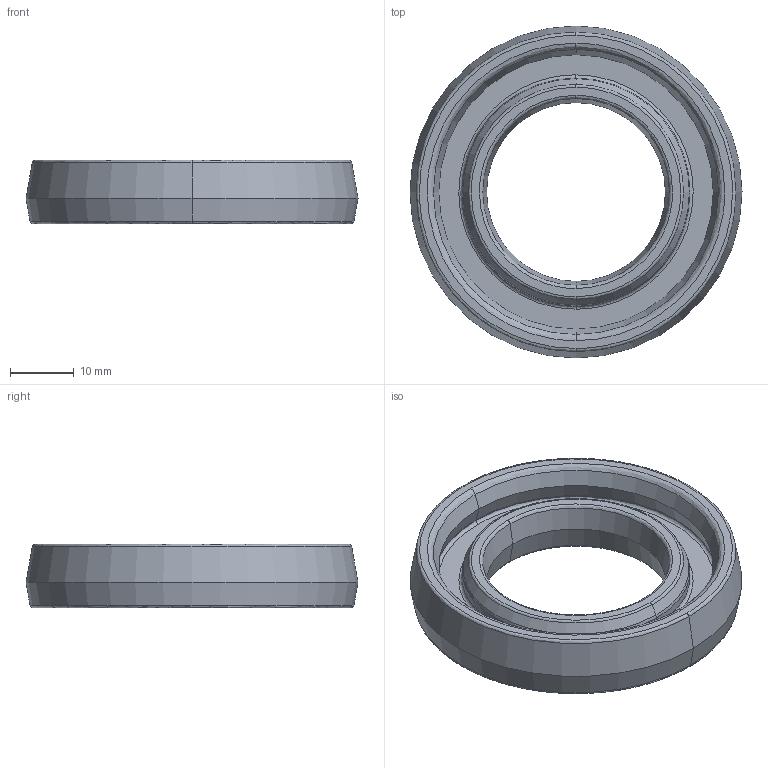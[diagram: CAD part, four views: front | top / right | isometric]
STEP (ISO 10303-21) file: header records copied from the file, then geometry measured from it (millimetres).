
FILE_DESCRIPTION (( 'STEP AP203' ), '1' );
FILE_NAME ('501017_Dämpfungsring Ø44.step', '2018-12-17T06:07:10', ( '' ), ( '' ), 'SwSTEP 2.0', 'SolidWorks 2017', '' );
FILE_SCHEMA (( 'CONFIG_CONTROL_DESIGN' ));
Length unit declared in the file: millimetre
Products named in the file (1): 501017_Dämpfungsring Ø44
Bounding box: 52 x 52 x 10 mm (x, y, z)
Volume: 10080.3 mm3; surface area: 5965.5 mm2
Topology: 1 solids, 1 shells, 40 faces, 96 edges, 60 vertices
Faces by surface type: bspline 20, cone 14, plane 4, cylinder 2
Entity records: 2521 total; most frequent: CARTESIAN_POINT 1621, ORIENTED_EDGE 192, DIRECTION 154, EDGE_CURVE 96, AXIS2_PLACEMENT_3D 69, VERTEX_POINT 60, CIRCLE 48, EDGE_LOOP 44
